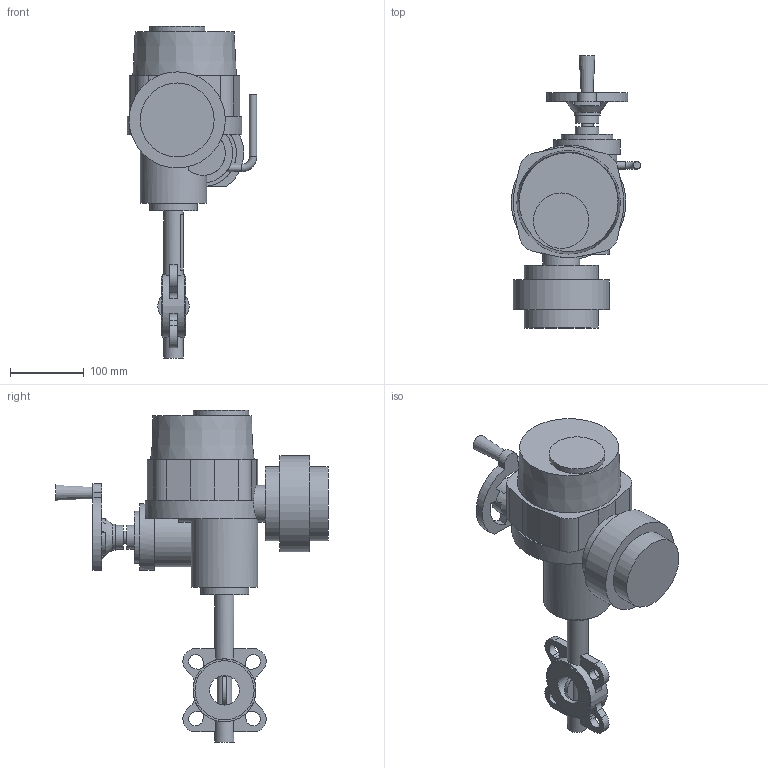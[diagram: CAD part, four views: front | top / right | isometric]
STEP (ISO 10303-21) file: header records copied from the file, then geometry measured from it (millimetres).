
FILE_DESCRIPTION(('STEP AP203'), '1');
FILE_NAME('青蜮铕 017W.ZS DN40+菹 QT.A005', '', ('UNSPECIFIED'), ('UNSPECIFIED'), 'ASCON STEP Converter 1.6', 'ASCON Math Kernel', '');
FILE_SCHEMA(('CONFIG_CONTROL_DESIGN'));
Length unit declared in the file: millimetre
Bounding box: 175 x 368 x 449 mm (x, y, z)
Volume: 4556484.4 mm3; surface area: 302717.4 mm2
Topology: 1 solids, 2 shells, 709 faces, 2024 edges, 1301 vertices
Faces by surface type: cylinder 470, plane 235, cone 3, torus 1
Full cylindrical faces by diameter (mm): 6.7 x8, 8 x4, 10 x2, 12.6 x1, 16 x1, 20 x2, 26 x2, 32 x2, 35 x2, 40 x1, 50 x1, 65 x1, 70 x1, 75 x1, 80 x2, 85 x1, 90 x2, 100 x2, 130 x1
Entity records: 30357 total; most frequent: CARTESIAN_POINT 5342, DIRECTION 4395, ORIENTED_EDGE 3905, EDGE_CURVE 1984, AXIS2_PLACEMENT_3D 1729, VERTEX_POINT 1301, CIRCLE 1019, LINE 937
